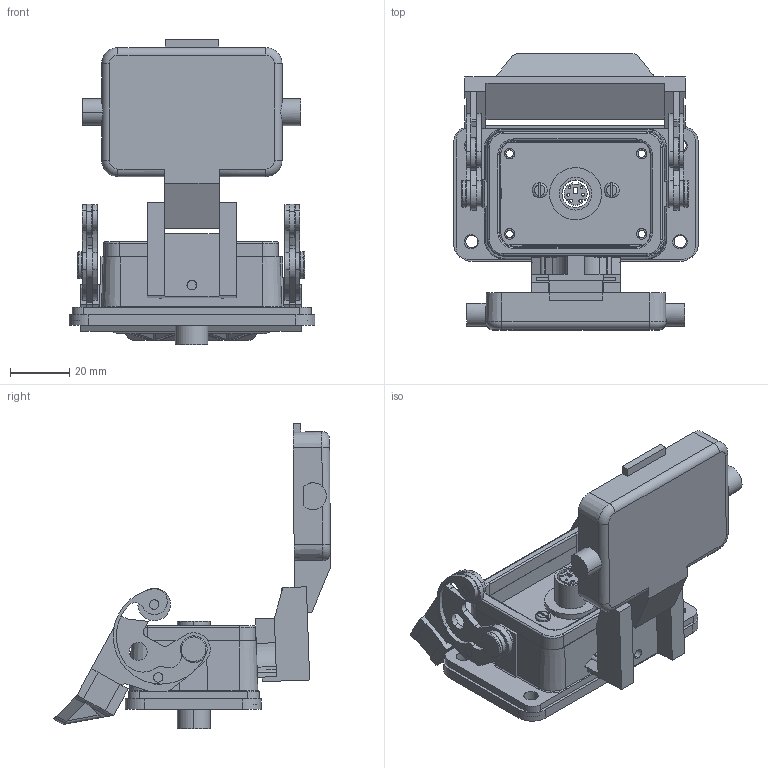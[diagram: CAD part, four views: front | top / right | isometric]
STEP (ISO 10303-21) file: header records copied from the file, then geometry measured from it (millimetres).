
FILE_DESCRIPTION (( 'STEP AP214' ), '1' );
FILE_NAME ('DM6-06LS.STEP', '2006-07-13T14:00:30', ( 'Mencom User' ), ( 'Mencom Corporation' ), 'SwSTEP 2.0', 'SolidWorks 2006104', '' );
FILE_SCHEMA (( 'AUTOMOTIVE_DESIGN' ));
Length unit declared in the file: inch
Products named in the file (1): DM6-06LS
Bounding box: 82.65 x 93.18 x 102.63 mm (x, y, z)
Surface area: 50344.5 mm2 (no closed solid volume)
Topology: 0 solids, 34 shells, 617 faces, 1891 edges, 1287 vertices
Faces by surface type: cylinder 288, plane 263, torus 30, bspline 20, cone 16
Entity records: 31448 total; most frequent: CARTESIAN_POINT 6687, DIRECTION 3542, ORIENTED_EDGE 3283, EDGE_CURVE 1891, VERTEX_POINT 1287, AXIS2_PLACEMENT_3D 1277, VECTOR 988, LINE 988
